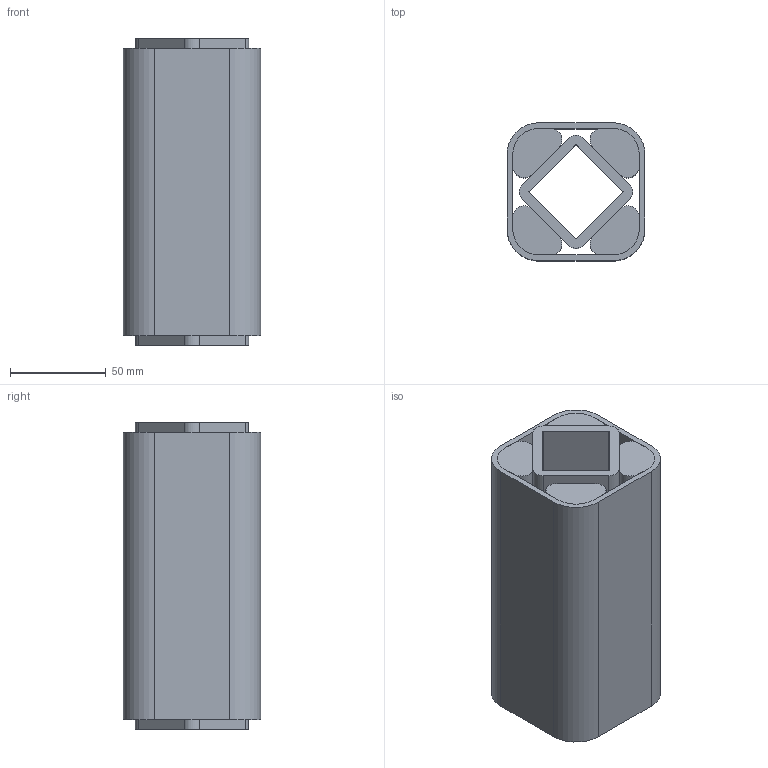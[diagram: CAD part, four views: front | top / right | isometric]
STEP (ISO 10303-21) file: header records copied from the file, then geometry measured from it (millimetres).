
FILE_DESCRIPTION((''),'2;1');
FILE_NAME('D:\ROSTA\Gummifederelemente\3D\DR-S45x150_01021018.stp','2005-02-02T07:34:48',('Administrator'),(''),'Autodesk Inventor 8','Autodesk Inventor 8','');
FILE_SCHEMA(('AUTOMOTIVE_DESIGN { 1 0 10303 214 1 1 1 1 }'));
Length unit declared in the file: millimetre
Products named in the file (4): Baugruppe5; 4.4.3730-009; 4.4.3730-010; 4.4.3730-011
Assembly tree (6 placements, depth 2):
  Baugruppe5
    4.4.3730-009
    4.4.3730-010
    4.4.3730-011  x4
Bounding box: 72 x 72 x 160 mm (x, y, z)
Volume: 510109.9 mm3; surface area: 180066.9 mm2
Topology: 6 solids, 6 shells, 68 faces, 168 edges, 112 vertices
Faces by surface type: plane 40, cylinder 28
Entity records: 1491 total; most frequent: DIRECTION 260, CARTESIAN_POINT 244, ORIENTED_EDGE 228, EDGE_CURVE 114, AXIS2_PLACEMENT_3D 92, VERTEX_POINT 76, VECTOR 76, LINE 76
